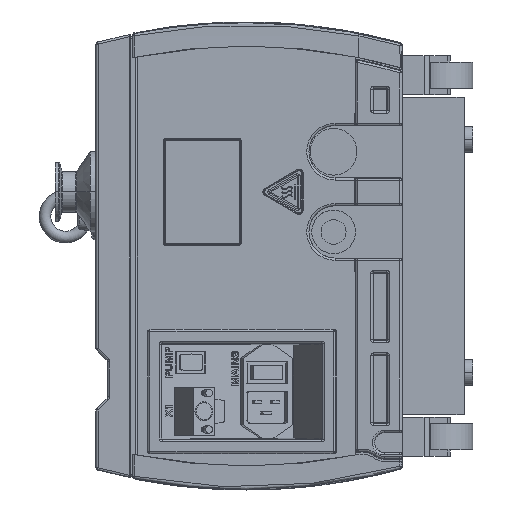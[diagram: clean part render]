
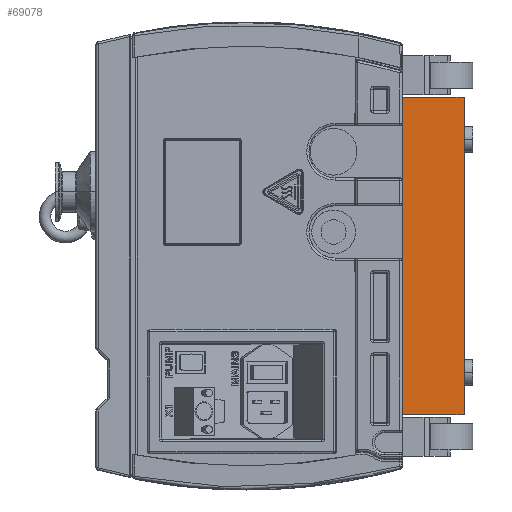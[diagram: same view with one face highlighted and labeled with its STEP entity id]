
A CAD part, left-side view. The second image highlights one B-rep face of the part: STEP entity #69078.
In plain terms, the highlighted planar face has unit normal (-1, 0, 0).
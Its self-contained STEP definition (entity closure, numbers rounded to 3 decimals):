
#1689=DIRECTION('',(0.,0.,-1.));
#1690=VECTOR('',#1689,218.);
#1691=CARTESIAN_POINT('',(173.8,-121.,42.5));
#1692=LINE('',#1691,#1690);
#21593=DIRECTION('',(0.,1.,0.));
#21594=VECTOR('',#21593,42.5);
#21595=CARTESIAN_POINT('',(173.8,-163.5,42.5));
#21596=LINE('',#21595,#21594);
#21613=DIRECTION('',(0.,1.,0.));
#21614=VECTOR('',#21613,42.5);
#21615=CARTESIAN_POINT('',(173.8,-163.5,-175.5));
#21616=LINE('',#21615,#21614);
#21621=DIRECTION('',(0.,0.,1.));
#21622=VECTOR('',#21621,218.);
#21623=CARTESIAN_POINT('',(173.8,-163.5,-175.5));
#21624=LINE('',#21623,#21622);
#26338=CARTESIAN_POINT('',(173.8,-121.,42.5));
#26340=VERTEX_POINT('',#26338);
#26341=CARTESIAN_POINT('',(173.8,-121.,-175.5));
#26342=VERTEX_POINT('',#26341);
#26347=CARTESIAN_POINT('',(173.8,-163.5,42.5));
#26348=VERTEX_POINT('',#26347);
#26351=CARTESIAN_POINT('',(173.8,-163.5,-175.5));
#26352=VERTEX_POINT('',#26351);
#69066=CARTESIAN_POINT('',(173.8,-121.,42.5));
#69067=DIRECTION('',(-1.,0.,0.));
#69068=DIRECTION('',(0.,-1.,0.));
#69069=AXIS2_PLACEMENT_3D('',#69066,#69067,#69068);
#69070=PLANE('',#69069);
#69071=ORIENTED_EDGE('',*,*,#31130,.F.);
#69072=ORIENTED_EDGE('',*,*,#69012,.F.);
#69074=ORIENTED_EDGE('',*,*,#69073,.F.);
#69075=ORIENTED_EDGE('',*,*,#69050,.T.);
#69076=EDGE_LOOP('',(#69071,#69072,#69074,#69075));
#69077=FACE_OUTER_BOUND('',#69076,.F.);
#31130=EDGE_CURVE('',#26340,#26342,#1692,.T.);
#69012=EDGE_CURVE('',#26348,#26340,#21596,.T.);
#69050=EDGE_CURVE('',#26352,#26342,#21616,.T.);
#69073=EDGE_CURVE('',#26352,#26348,#21624,.T.);
#69078=ADVANCED_FACE('',(#69077),#69070,.T.);
